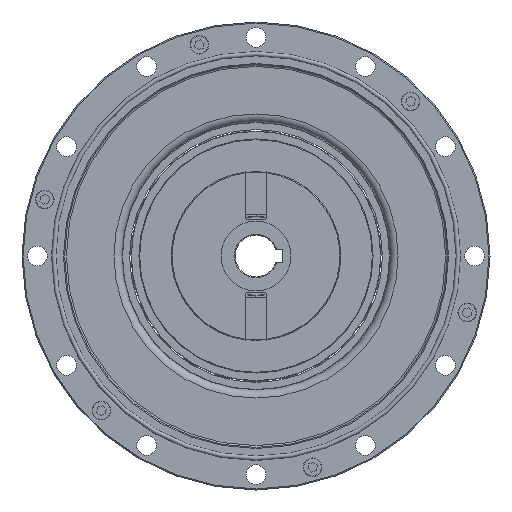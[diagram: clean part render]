
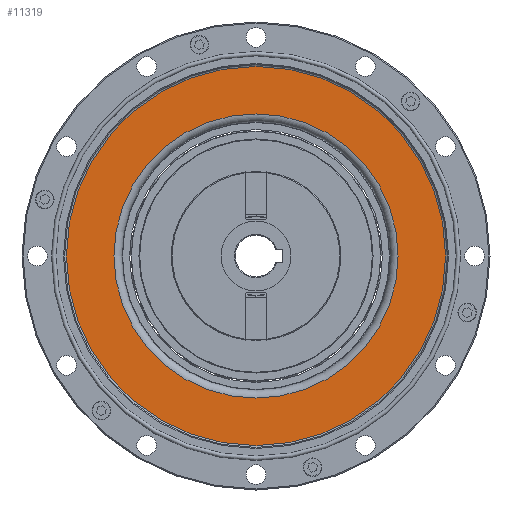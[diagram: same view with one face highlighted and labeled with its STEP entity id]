
A CAD part, left-side view. The second image highlights one B-rep face of the part: STEP entity #11319.
In plain terms, the highlighted planar face has unit normal (-1, 0, 0).
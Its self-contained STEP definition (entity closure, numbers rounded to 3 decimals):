
#120 = CARTESIAN_POINT ( 'NONE',  ( 10.247, -86.7, 0. ) ) ;
#818 = CARTESIAN_POINT ( 'NONE',  ( 10.247, 0., 0. ) ) ;
#1607 = CARTESIAN_POINT ( 'NONE',  ( 10.247, 0., 0. ) ) ;
#1915 = ORIENTED_EDGE ( 'NONE', *, *, #11941, .T. ) ;
#2550 = DIRECTION ( 'NONE',  ( 0., -1., 0. ) ) ;
#2582 = ORIENTED_EDGE ( 'NONE', *, *, #4193, .F. ) ;
#4193 = EDGE_CURVE ( 'NONE', #8620, #8620, #14897, .T. ) ;
#4970 = FACE_BOUND ( 'NONE', #12260, .T. ) ;
#6059 = VERTEX_POINT ( 'NONE', #120 ) ;
#6439 = CARTESIAN_POINT ( 'NONE',  ( 10.247, 0., 0. ) ) ;
#6847 = DIRECTION ( 'NONE',  ( 1., 0., 0. ) ) ;
#8236 = DIRECTION ( 'NONE',  ( 0., -1., 0. ) ) ;
#8620 = VERTEX_POINT ( 'NONE', #18192 ) ;
#11319 = ADVANCED_FACE ( 'NONE', ( #4970, #22514 ), #20813, .F. ) ;
#11941 = EDGE_CURVE ( 'NONE', #6059, #6059, #16213, .T. ) ;
#12260 = EDGE_LOOP ( 'NONE', ( #2582 ) ) ;
#13068 = DIRECTION ( 'NONE',  ( -1., 0., 0. ) ) ;
#13984 = AXIS2_PLACEMENT_3D ( 'NONE', #6439, #18736, #8236 ) ;
#14897 = CIRCLE ( 'NONE', #13984, 64.971 ) ;
#16213 = CIRCLE ( 'NONE', #16264, 86.7 ) ;
#16264 = AXIS2_PLACEMENT_3D ( 'NONE', #818, #13068, #2550 ) ;
#17144 = EDGE_LOOP ( 'NONE', ( #1915 ) ) ;
#18192 = CARTESIAN_POINT ( 'NONE',  ( 10.247, -64.971, 0. ) ) ;
#18736 = DIRECTION ( 'NONE',  ( -1., 0., 0. ) ) ;
#19149 = DIRECTION ( 'NONE',  ( 0., 1., 0. ) ) ;
#20813 = PLANE ( 'NONE',  #21082 ) ;
#21082 = AXIS2_PLACEMENT_3D ( 'NONE', #1607, #6847, #19149 ) ;
#22514 = FACE_OUTER_BOUND ( 'NONE', #17144, .T. ) ;
